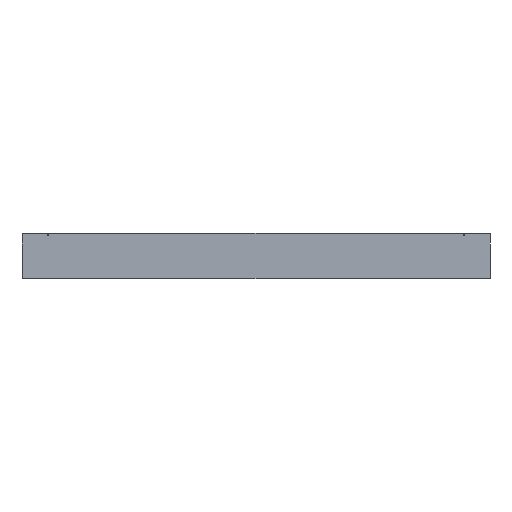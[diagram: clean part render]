
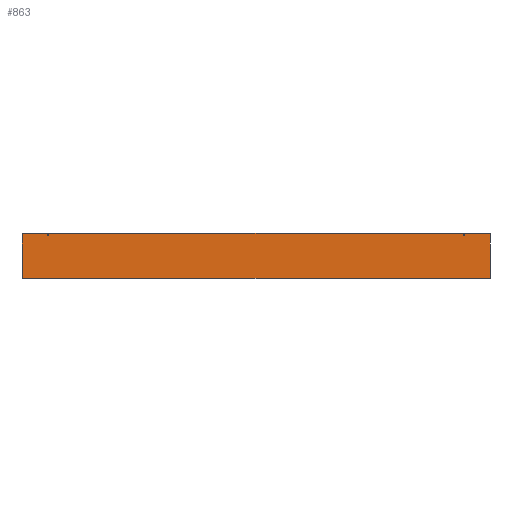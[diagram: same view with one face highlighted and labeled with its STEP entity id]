
A CAD part, top view. The second image highlights one B-rep face of the part: STEP entity #863.
In plain terms, the highlighted planar face has unit normal (0, 0, 1).
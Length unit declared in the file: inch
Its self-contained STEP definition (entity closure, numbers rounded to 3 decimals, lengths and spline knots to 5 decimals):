
#247=CARTESIAN_POINT('',(35.625,3.5,0.055));
#248=VERTEX_POINT('',#247);
#249=CARTESIAN_POINT('',(35.75,3.375,0.055));
#250=VERTEX_POINT('',#249);
#251=CARTESIAN_POINT('',(35.625,3.375,0.055));
#252=DIRECTION('',(0.0,0.0,-1.0));
#253=DIRECTION('',(0.707,0.707,0.0));
#254=AXIS2_PLACEMENT_3D('',#251,#252,#253);
#255=CIRCLE('',#254,0.125);
#256=EDGE_CURVE('',#248,#250,#255,.T.);
#298=CARTESIAN_POINT('',(-35.625,3.5,0.055));
#299=VERTEX_POINT('',#298);
#306=CARTESIAN_POINT('',(-35.625,3.5,0.055));
#307=DIRECTION('',(1.0,0.0,0.0));
#308=VECTOR('',#307,71.25);
#309=LINE('',#306,#308);
#310=EDGE_CURVE('',#299,#248,#309,.T.);
#383=CARTESIAN_POINT('',(-35.75,3.375,0.055));
#384=VERTEX_POINT('',#383);
#385=CARTESIAN_POINT('',(-35.625,3.375,0.055));
#386=DIRECTION('',(0.0,0.0,-1.0));
#387=DIRECTION('',(-0.707,0.707,0.0));
#388=AXIS2_PLACEMENT_3D('',#385,#386,#387);
#389=CIRCLE('',#388,0.125);
#390=EDGE_CURVE('',#384,#299,#389,.T.);
#410=CARTESIAN_POINT('',(-35.75,-3.414,0.055));
#411=VERTEX_POINT('',#410);
#418=CARTESIAN_POINT('',(-35.75,-3.414,0.055));
#419=DIRECTION('',(0.0,1.0,0.0));
#420=VECTOR('',#419,6.789);
#421=LINE('',#418,#420);
#422=EDGE_CURVE('',#411,#384,#421,.T.);
#651=CARTESIAN_POINT('',(-31.8385,3.25,0.055));
#652=VERTEX_POINT('',#651);
#653=CARTESIAN_POINT('',(-31.75,3.25,0.055));
#654=DIRECTION('',(0.0,0.0,-1.0));
#655=DIRECTION('',(1.0,0.0,0.0));
#656=AXIS2_PLACEMENT_3D('',#653,#654,#655);
#657=CIRCLE('',#656,0.0885);
#658=EDGE_CURVE('',#652,#652,#657,.T.);
#671=CARTESIAN_POINT('',(31.6615,3.25,0.055));
#672=VERTEX_POINT('',#671);
#673=CARTESIAN_POINT('',(31.75,3.25,0.055));
#674=DIRECTION('',(0.0,0.0,-1.0));
#675=DIRECTION('',(1.0,0.0,0.0));
#676=AXIS2_PLACEMENT_3D('',#673,#674,#675);
#677=CIRCLE('',#676,0.0885);
#678=EDGE_CURVE('',#672,#672,#677,.T.);
#740=CARTESIAN_POINT('',(35.75,-3.414,0.055));
#741=VERTEX_POINT('',#740);
#817=CARTESIAN_POINT('',(-35.75,-3.414,0.055));
#818=DIRECTION('',(1.0,0.0,0.0));
#819=VECTOR('',#818,71.5);
#820=LINE('',#817,#819);
#821=EDGE_CURVE('',#411,#741,#820,.T.);
#833=CARTESIAN_POINT('',(35.75,3.375,0.055));
#834=DIRECTION('',(0.0,-1.0,0.0));
#835=VECTOR('',#834,6.789);
#836=LINE('',#833,#835);
#837=EDGE_CURVE('',#250,#741,#836,.T.);
#844=CARTESIAN_POINT('',(0.0,0.,0.055));
#845=DIRECTION('',(0.0,0.0,1.0));
#846=DIRECTION('',(1.0,0.0,0.0));
#847=AXIS2_PLACEMENT_3D('',#844,#845,#846);
#848=PLANE('',#847);
#849=ORIENTED_EDGE('',*,*,#256,.F.);
#850=ORIENTED_EDGE('',*,*,#310,.F.);
#851=ORIENTED_EDGE('',*,*,#390,.F.);
#852=ORIENTED_EDGE('',*,*,#422,.F.);
#853=ORIENTED_EDGE('',*,*,#821,.T.);
#854=ORIENTED_EDGE('',*,*,#837,.F.);
#855=EDGE_LOOP('',(#849,#850,#851,#852,#853,#854));
#856=FACE_OUTER_BOUND('',#855,.T.);
#857=ORIENTED_EDGE('',*,*,#658,.T.);
#858=EDGE_LOOP('',(#857));
#859=FACE_BOUND('',#858,.T.);
#860=ORIENTED_EDGE('',*,*,#678,.T.);
#861=EDGE_LOOP('',(#860));
#862=FACE_BOUND('',#861,.T.);
#863=ADVANCED_FACE('',(#856,#859,#862),#848,.T.);
